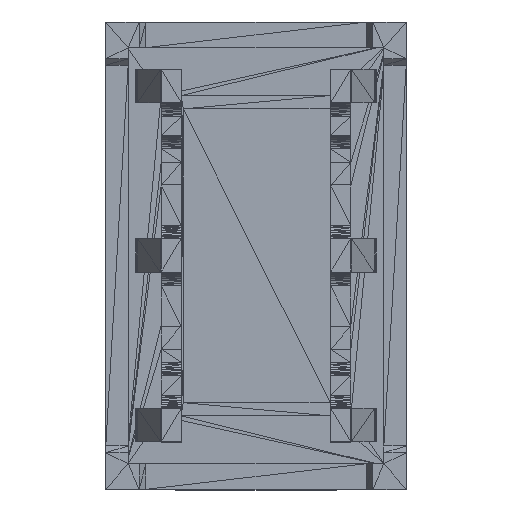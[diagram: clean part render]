
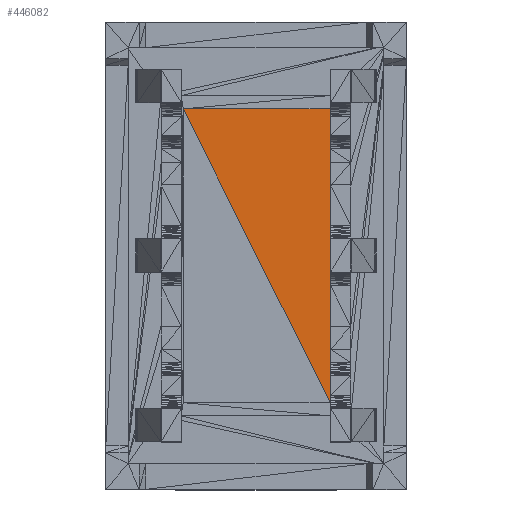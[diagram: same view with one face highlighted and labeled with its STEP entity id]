
A CAD part, top view. The second image highlights one B-rep face of the part: STEP entity #446082.
In plain terms, the highlighted planar face has unit normal (0, 0, 1).
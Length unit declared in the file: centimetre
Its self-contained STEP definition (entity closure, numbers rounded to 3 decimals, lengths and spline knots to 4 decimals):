
#368=DIRECTION('',(1.,0.,0.));
#18746=DIRECTION('',(0.,1.,0.));
#38116=DIRECTION('',(-0.447,0.894,0.));
#38198=VECTOR('',#368,1.);
#56576=VECTOR('',#18746,1.);
#75946=VECTOR('',#38116,1.);
#90148=CARTESIAN_POINT('',(0.111,-0.22,0.68));
#90149=CARTESIAN_POINT('',(-0.109,0.22,0.68));
#90150=CARTESIAN_POINT('',(0.111,0.22,0.68));
#105415=VERTEX_POINT('',#90148);
#105416=VERTEX_POINT('',#90149);
#105417=VERTEX_POINT('',#90150);
#147328=LINE('',#90149,#38198);
#147330=LINE('',#90148,#56576);
#147401=LINE('',#90148,#75946);
#190810=EDGE_CURVE('',#105416,#105417,#147328,.T.);
#190812=EDGE_CURVE('',#105415,#105417,#147330,.T.);
#190883=EDGE_CURVE('',#105415,#105416,#147401,.T.);
#234294=ORIENTED_EDGE('',*,*,#190812,.T.);
#277774=ORIENTED_EDGE('',*,*,#190810,.F.);
#277847=ORIENTED_EDGE('',*,*,#190883,.F.);
#306857=EDGE_LOOP('',(#277847,#234294,#277774));
#334702=FACE_OUTER_BOUND('',#306857,.T.);
#388948=DIRECTION('',(0.,0.,1.));
#388949=AXIS2_PLACEMENT_3D('',#90149,#388948,#38116);
#418237=PLANE('',#388949);
#446082=ADVANCED_FACE('',(#334702),#418237,.T.);
